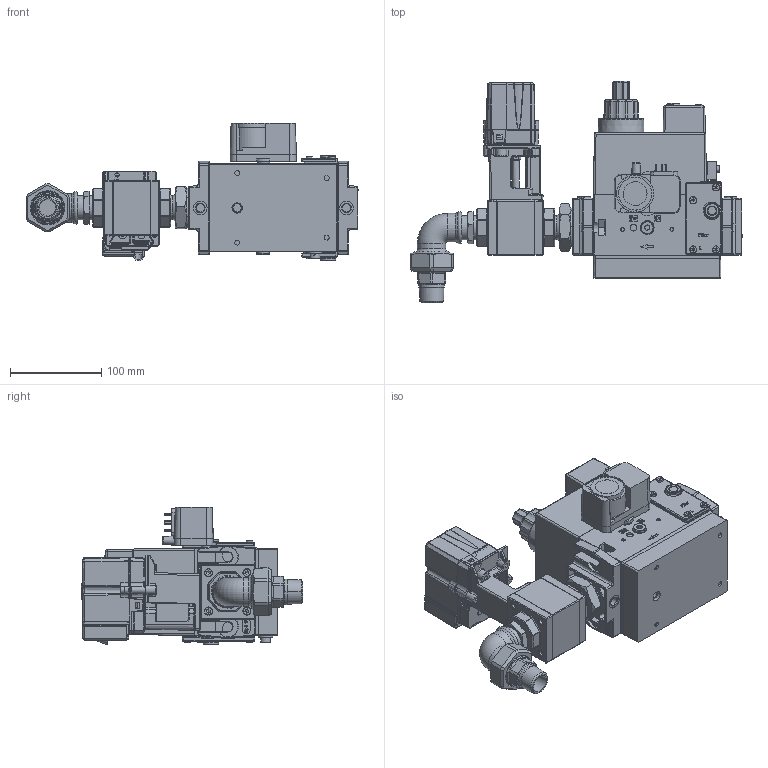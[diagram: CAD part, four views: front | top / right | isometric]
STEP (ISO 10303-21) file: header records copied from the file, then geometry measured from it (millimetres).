
FILE_DESCRIPTION (( 'STEP AP214' ), '1' );
FILE_NAME ('19990574.STEP', '2022-06-23T11:25:55', ( '' ), ( '' ), 'SwSTEP 2.0', 'SolidWorks 2021', '' );
FILE_SCHEMA (( 'AUTOMOTIVE_DESIGN' ));
Length unit declared in the file: millimetre
Products named in the file (17): 0006020505-104194; socket head cap screw_iso_ISO 4762 M4 x 16 --- 16C; 30413-102950; lock washer for shafts_din_Lock washer DIN 6799 - 7; 5335_ISO 4762 M5 x 16 --- 16C; 23976-112584; 19990574; 0024020037-03483; 0005090211-104244_Pressostato tra V1 e V2; 0005040154-102801; 0005090211-104245-AUTO; 31341-03516; 0005040038-03745; 0006020511-112453; 18684-102940; 0024030048-102621; 0006020511-112454-AUTO
Assembly tree (25 placements, depth 3):
  19990574
    18684-102940
    30413-102950
    0006020511-112453
      0006020511-112454-AUTO
      0024030048-102621
      0006020505-104194
      lock washer for shafts_din_Lock washer DIN 6799 - 7
      5335_ISO 4762 M5 x 16 --- 16C  x8
    0005040154-102801
    31341-03516  x2
    0005090211-104244_Pressostato tra V1 e V2
      0005090211-104245-AUTO
      0005040038-03745
    0024020037-03483
    socket head cap screw_iso_ISO 4762 M4 x 16 --- 16C  x2
    23976-112584
Bounding box: 362.97 x 242 x 150.7 mm (x, y, z)
Volume: 907802.5 mm3; surface area: 372150.9 mm2
Topology: 30 solids, 1966 shells, 5954 faces, 19762 edges, 15699 vertices
Faces by surface type: plane 2608, bspline 1685, cylinder 1242, cone 308, torus 106, sphere 5
Full cylindrical faces by diameter (mm): 0.7 x2, 1.5 x1, 2 x13, 2.459 x1, 2.5 x4, 2.8 x2, 2.9 x1, 3 x4, 3.1 x2, 3.3 x2, 3.5 x2, 4 x2, 4.2 x2, 4.5 x3, 4.8 x1, 5 x10, 5.2 x1, 5.3 x2, 5.391 x4, 5.5 x2, 5.6 x1, 6 x2, 6.5 x1, 7 x12, 7.3 x1, 8 x13, 8.5 x8, 9 x11, 10.6 x2, 11 x1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
Entity records: 326808 total; most frequent: CARTESIAN_POINT 159518, ORIENTED_EDGE 26563, DIRECTION 22037, EDGE_CURVE 18052, VERTEX_POINT 14907, LINE 10107, VECTOR 10107, EDGE_LOOP 6174
